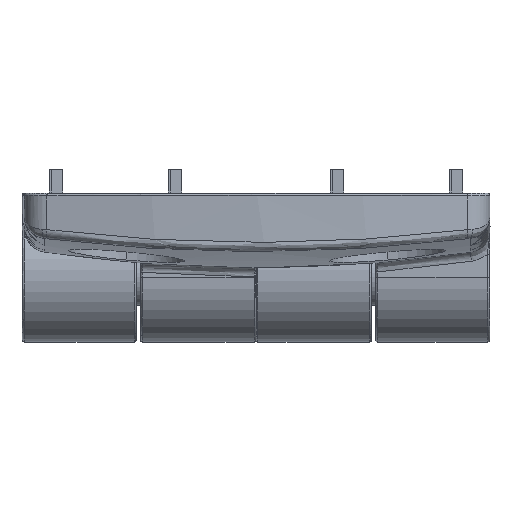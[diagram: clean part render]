
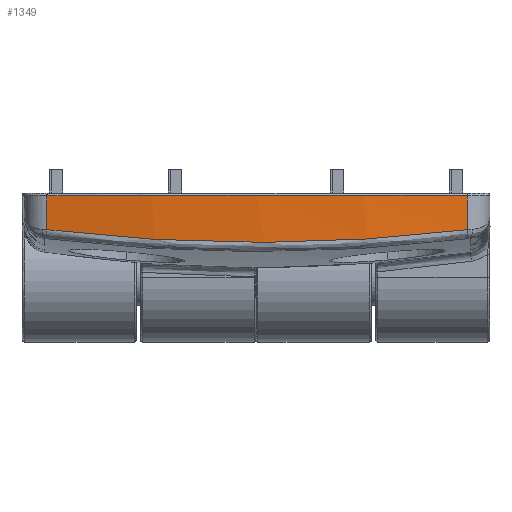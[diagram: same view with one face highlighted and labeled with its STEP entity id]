
A CAD part, left-side view. The second image highlights one B-rep face of the part: STEP entity #1349.
In plain terms, the highlighted cylindrical face has radius 118.25 mm (diameter 236.5 mm), a partial arc.
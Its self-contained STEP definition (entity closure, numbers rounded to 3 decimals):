
#114 = DIRECTION ( 'NONE',  ( 0., 0., -1. ) ) ;
#276 = VERTEX_POINT ( 'NONE', #746 ) ;
#289 = CARTESIAN_POINT ( 'NONE',  ( -33.376, 22.323, 5.126 ) ) ;
#432 = CARTESIAN_POINT ( 'NONE',  ( -34.095, -19.125, 4.674 ) ) ;
#746 = CARTESIAN_POINT ( 'NONE',  ( -33.376, -22.823, 8.75 ) ) ;
#1349 = ADVANCED_FACE ( 'NONE', ( #3447 ), #5711, .T. ) ;
#1768 = DIRECTION ( 'NONE',  ( -1., 0., 0. ) ) ;
#2173 = CARTESIAN_POINT ( 'NONE',  ( 82.7, -0.25, 3.68 ) ) ;
#2613 = CARTESIAN_POINT ( 'NONE',  ( -35.55, -4.044, 3.761 ) ) ;
#2627 = ORIENTED_EDGE ( 'NONE', *, *, #7075, .F. ) ;
#2839 = CARTESIAN_POINT ( 'NONE',  ( -34.639, -15.379, 4.332 ) ) ;
#3067 = ORIENTED_EDGE ( 'NONE', *, *, #5936, .F. ) ;
#3437 = CARTESIAN_POINT ( 'NONE',  ( -33.376, 22.323, 6.938 ) ) ;
#3447 = FACE_OUTER_BOUND ( 'NONE', #5072, .T. ) ;
#3536 = VERTEX_POINT ( 'NONE', #6350 ) ;
#5037 = CARTESIAN_POINT ( 'NONE',  ( -33.376, -22.823, 5.126 ) ) ;
#5039 = CIRCLE ( 'NONE', #7453, 118.25 ) ;
#5072 = EDGE_LOOP ( 'NONE', ( #8678, #7743, #2627, #3067 ) ) ;
#5711 = CYLINDRICAL_SURFACE ( 'NONE', #8016, 118.25 ) ;
#5743 = LINE ( 'NONE', #10416, #5806 ) ;
#5806 = VECTOR ( 'NONE', #114, 1000. ) ;
#5936 = EDGE_CURVE ( 'NONE', #276, #8951, #5743, .T. ) ;
#6092 = VERTEX_POINT ( 'NONE', #6191 ) ;
#6191 = CARTESIAN_POINT ( 'NONE',  ( -33.376, 22.323, 8.75 ) ) ;
#6214 = B_SPLINE_CURVE_WITH_KNOTS ( 'NONE', 3,
 ( #5037, #432, #2839, #7364, #2613, #12933, #9615, #11947, #10595, #289 ),
 .UNSPECIFIED., .F., .F.,
 ( 4, 2, 2, 2, 4 ),
 ( 0., 0.25, 0.5, 0.75, 1. ),
 .UNSPECIFIED. ) ;
#6350 = CARTESIAN_POINT ( 'NONE',  ( -33.376, 22.323, 5.126 ) ) ;
#6614 = VECTOR ( 'NONE', #8045, 1000. ) ;
#6771 = DIRECTION ( 'NONE',  ( 0., 0., 1. ) ) ;
#7075 = EDGE_CURVE ( 'NONE', #8951, #3536, #6214, .T. ) ;
#7364 = CARTESIAN_POINT ( 'NONE',  ( -35.367, -7.839, 3.876 ) ) ;
#7453 = AXIS2_PLACEMENT_3D ( 'NONE', #12082, #13150, #1768 ) ;
#7743 = ORIENTED_EDGE ( 'NONE', *, *, #13339, .T. ) ;
#8016 = AXIS2_PLACEMENT_3D ( 'NONE', #2173, #6771, #11360 ) ;
#8045 = DIRECTION ( 'NONE',  ( 0., 0., -1. ) ) ;
#8270 = LINE ( 'NONE', #3437, #6614 ) ;
#8678 = ORIENTED_EDGE ( 'NONE', *, *, #11015, .F. ) ;
#8951 = VERTEX_POINT ( 'NONE', #10098 ) ;
#9615 = CARTESIAN_POINT ( 'NONE',  ( -35.367, 7.339, 3.876 ) ) ;
#10098 = CARTESIAN_POINT ( 'NONE',  ( -33.376, -22.823, 5.126 ) ) ;
#10416 = CARTESIAN_POINT ( 'NONE',  ( -33.376, -22.823, 6.256 ) ) ;
#10595 = CARTESIAN_POINT ( 'NONE',  ( -34.095, 18.625, 4.674 ) ) ;
#11015 = EDGE_CURVE ( 'NONE', #6092, #276, #5039, .T. ) ;
#11360 = DIRECTION ( 'NONE',  ( 0., -1., 0. ) ) ;
#11947 = CARTESIAN_POINT ( 'NONE',  ( -34.639, 14.879, 4.332 ) ) ;
#12082 = CARTESIAN_POINT ( 'NONE',  ( 82.7, -0.25, 8.75 ) ) ;
#12933 = CARTESIAN_POINT ( 'NONE',  ( -35.55, 3.544, 3.761 ) ) ;
#13150 = DIRECTION ( 'NONE',  ( 0., 0., 1. ) ) ;
#13339 = EDGE_CURVE ( 'NONE', #6092, #3536, #8270, .T. ) ;
